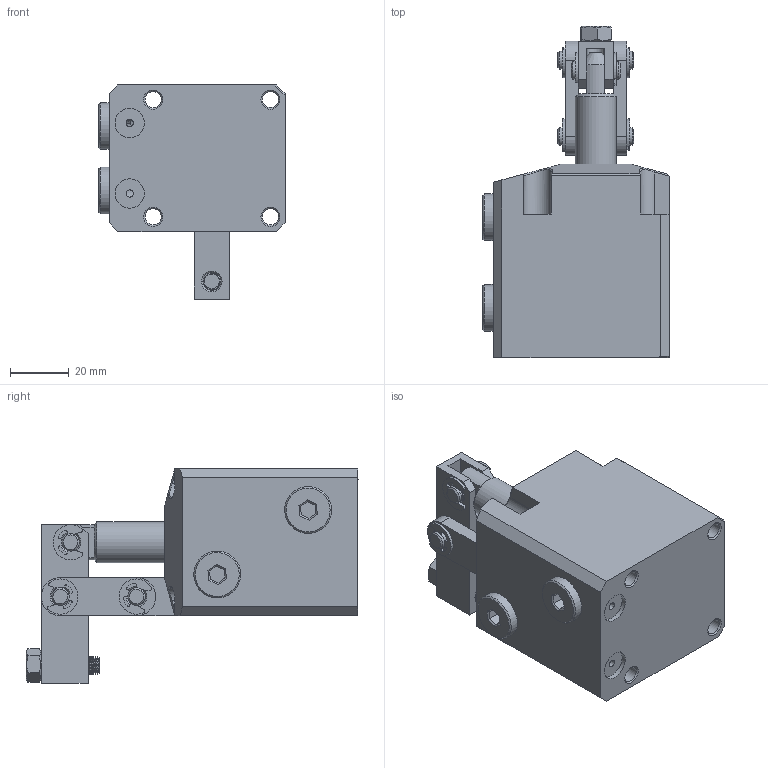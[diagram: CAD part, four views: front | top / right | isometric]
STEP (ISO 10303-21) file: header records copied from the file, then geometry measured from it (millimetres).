
FILE_DESCRIPTION(/* description */ ('STEP AP203'),/* implementation_level */ '2;1');
FILE_NAME(/* name */ 'D:\Vault_2016\Projekty\Clamptek\Hydraulic\CBLU\CBLU-30\STEP\CBLU-30GL.stp',/* time_stamp */ '2021-05-06T12:09:43+02:00',/* author */ ('user'),/* organization */ (''),/* preprocessor_version */ 'ST-DEVELOPER v18.1',/* originating_system */ 'Autodesk Inventor 2021',/* authorisation */ '');
FILE_SCHEMA (('AUTOMOTIVE_DESIGN { 1 0 10303 214 3 1 1 }'));
Length unit declared in the file: millimetre
Products named in the file (11): CBLU-30GL; ±¾ÌåCL_1_1_1; 30Á¬¸Ë_2; hex nuts, style 1-grades ab gb_GB_FASTENER_NUT_SNAB1 M6-N_1; hexagon socket head cap screws gb_GB_FASTENER_SCREWS_HSHCS M6X25-S_1_
1; ³¤ÏúÖá_1_1; 30¶ÌÏúÖá_2; 30»îÈû¸Ë_1_1_1; 30Ñ¹°å_1; e rings gb_GB_CONNECTING_PIECE_RINGS_HR 6_1_1; Áù½Ç¶ÂÍ·
Assembly tree (18 placements, depth 2):
  CBLU-30GL
    ±¾ÌåCL_1_1_1
    Áù½Ç¶ÂÍ·  x2
    30Á¬¸Ë_2  x2
    hex nuts, style 1-grades ab gb_GB_FASTENER_NUT_SNAB1 M6-N_1
    hexagon socket head cap screws gb_GB_FASTENER_SCREWS_HSHCS M6X25-S_1_
1
    ³¤ÏúÖá_1_1  x2
    e rings gb_GB_CONNECTING_PIECE_RINGS_HR 6_1_1  x6
    30¶ÌÏúÖá_2
    30»îÈû¸Ë_1_1_1
    30Ñ¹°å_1
Bounding box: 63.5 x 113.2 x 73 mm (x, y, z)
Volume: 186734.2 mm3; surface area: 47559.8 mm2
Topology: 19 solids, 19 shells, 493 faces, 1232 edges, 801 vertices
Faces by surface type: plane 191, cylinder 169, cone 123, bspline 10
Full cylindrical faces by diameter (mm): 2 x2, 2.5 x1, 4.9 x3, 4.917 x1, 5 x3, 5.5 x4, 6 x56, 8 x2, 8.069 x2, 9.4 x2, 10 x2, 14 x2, 16 x2, 30 x2, 36 x1, 37 x1
Entity records: 11879 total; most frequent: CARTESIAN_POINT 2827, DIRECTION 1944, ORIENTED_EDGE 1740, EDGE_CURVE 870, AXIS2_PLACEMENT_3D 756, VERTEX_POINT 563, LINE 432, VECTOR 432
